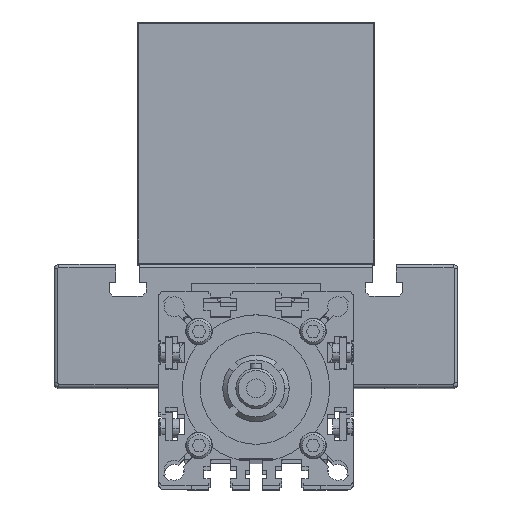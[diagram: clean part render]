
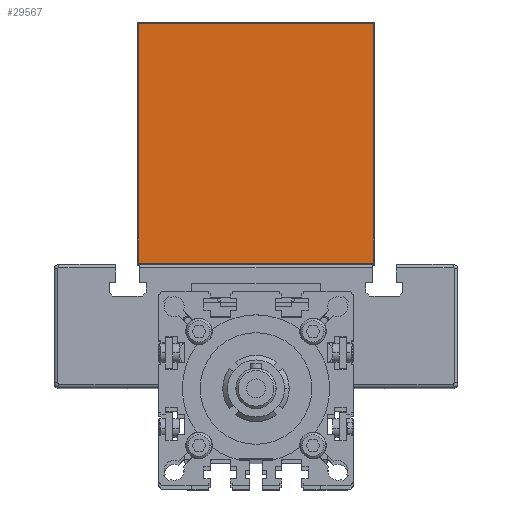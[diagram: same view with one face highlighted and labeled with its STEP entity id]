
A CAD part, top view. The second image highlights one B-rep face of the part: STEP entity #29567.
In plain terms, the highlighted planar face has unit normal (0, 0, 1).
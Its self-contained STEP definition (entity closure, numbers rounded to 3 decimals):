
#1474 = DIRECTION ( 'NONE',  ( 0., -1., 0. ) ) ;
#1674 = CARTESIAN_POINT ( 'NONE',  ( 50., 0., 90. ) ) ;
#2099 = EDGE_CURVE ( 'NONE', #34724, #6324, #33711, .T. ) ;
#3156 = VERTEX_POINT ( 'NONE', #37675 ) ;
#3184 = CARTESIAN_POINT ( 'NONE',  ( 50., 101.5, 90. ) ) ;
#5398 = CARTESIAN_POINT ( 'NONE',  ( -49.5, 0.5, 90. ) ) ;
#6324 = VERTEX_POINT ( 'NONE', #38452 ) ;
#7688 = VECTOR ( 'NONE', #33874, 1000. ) ;
#9263 = LINE ( 'NONE', #3184, #7688 ) ;
#9708 = LINE ( 'NONE', #34330, #13804 ) ;
#10507 = DIRECTION ( 'NONE',  ( 1., 0., 0. ) ) ;
#10687 = ORIENTED_EDGE ( 'NONE', *, *, #33515, .T. ) ;
#11351 = DIRECTION ( 'NONE',  ( 0., 0., -1. ) ) ;
#12803 = ORIENTED_EDGE ( 'NONE', *, *, #2099, .T. ) ;
#13408 = VECTOR ( 'NONE', #30663, 1000. ) ;
#13804 = VECTOR ( 'NONE', #10507, 1000. ) ;
#14166 = DIRECTION ( 'NONE',  ( 0., 1., 0. ) ) ;
#16329 = EDGE_LOOP ( 'NONE', ( #12803, #10687, #37564, #18977 ) ) ;
#16693 = EDGE_CURVE ( 'NONE', #34910, #34724, #9708, .T. ) ;
#17193 = PLANE ( 'NONE',  #37043 ) ;
#17646 = EDGE_CURVE ( 'NONE', #3156, #34910, #29115, .T. ) ;
#18977 = ORIENTED_EDGE ( 'NONE', *, *, #16693, .T. ) ;
#20038 = CARTESIAN_POINT ( 'NONE',  ( -49.5, 0., 90. ) ) ;
#21787 = CARTESIAN_POINT ( 'NONE',  ( 49.5, 102., 90. ) ) ;
#22933 = VECTOR ( 'NONE', #1474, 1000. ) ;
#29115 = LINE ( 'NONE', #20038, #22933 ) ;
#29318 = FACE_OUTER_BOUND ( 'NONE', #16329, .T. ) ;
#29567 = ADVANCED_FACE ( 'NONE', ( #29318 ), #17193, .F. ) ;
#30084 = CARTESIAN_POINT ( 'NONE',  ( 49.5, 0.5, 90. ) ) ;
#30663 = DIRECTION ( 'NONE',  ( 0., 1., 0. ) ) ;
#33515 = EDGE_CURVE ( 'NONE', #6324, #3156, #9263, .T. ) ;
#33711 = LINE ( 'NONE', #21787, #13408 ) ;
#33874 = DIRECTION ( 'NONE',  ( -1., 0., 0. ) ) ;
#34330 = CARTESIAN_POINT ( 'NONE',  ( 50., 0.5, 90. ) ) ;
#34724 = VERTEX_POINT ( 'NONE', #30084 ) ;
#34910 = VERTEX_POINT ( 'NONE', #5398 ) ;
#37043 = AXIS2_PLACEMENT_3D ( 'NONE', #1674, #11351, #14166 ) ;
#37564 = ORIENTED_EDGE ( 'NONE', *, *, #17646, .T. ) ;
#37675 = CARTESIAN_POINT ( 'NONE',  ( -49.5, 101.5, 90. ) ) ;
#38452 = CARTESIAN_POINT ( 'NONE',  ( 49.5, 101.5, 90. ) ) ;
